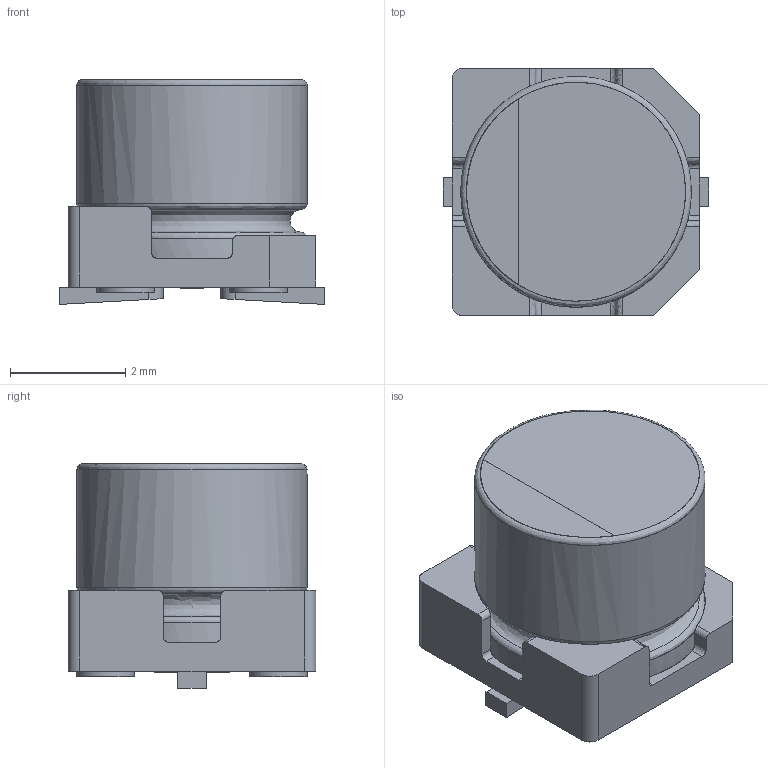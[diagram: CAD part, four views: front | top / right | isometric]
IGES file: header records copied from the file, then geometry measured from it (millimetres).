
Start section: JAMA-IS VERSION  1.0
Bounding box: 4.6 x 4.3 x 3.9 mm (x, y, z)
Surface area: 135.5 mm2 (no closed solid volume)
Topology: 0 solids, 0 shells, 81 faces, 922 edges, 904 vertices
Faces by surface type: bspline 81
